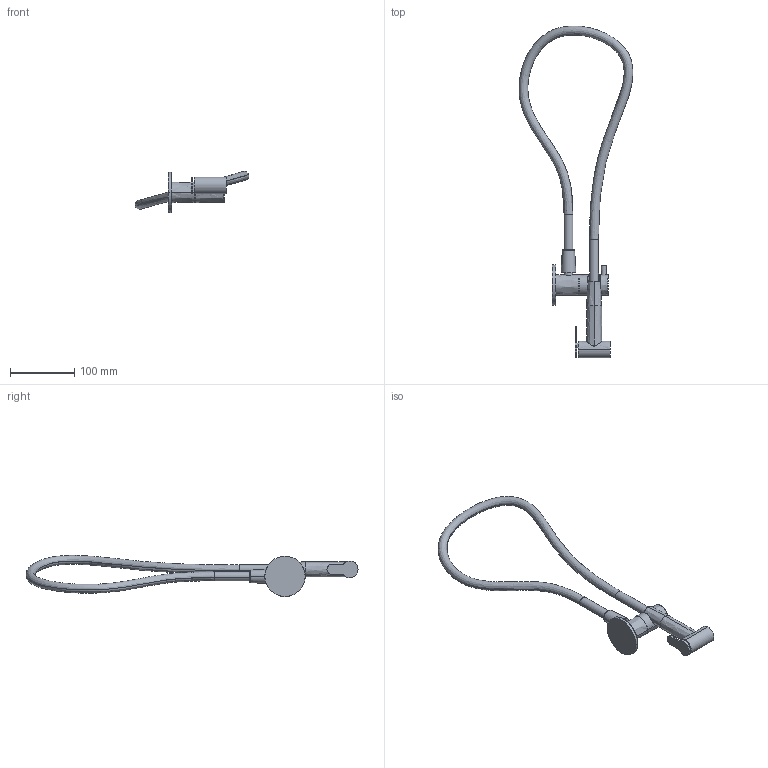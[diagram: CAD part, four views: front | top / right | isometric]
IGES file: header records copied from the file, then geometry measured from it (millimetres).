
Start section:  PTC IGES file: 69401.igs
Global section: file name: 69401.igs; native system: Creo Parametric by PTC Inc.; preprocessor: 2022014; author: carloff; organization: Unknown; date: 20230921.142236; units: millimetre
Bounding box: 178 x 518.71 x 64.25 mm (x, y, z)
Surface area: 70542 mm2 (no closed solid volume)
Topology: 0 solids, 0 shells, 63 faces, 284 edges, 284 vertices
Faces by surface type: revolution 40, bspline 23
